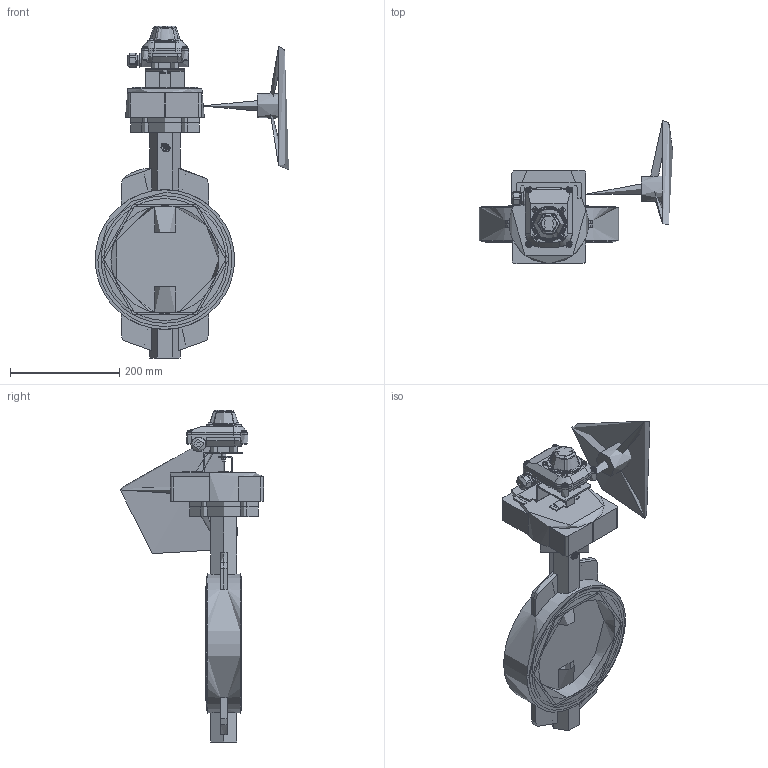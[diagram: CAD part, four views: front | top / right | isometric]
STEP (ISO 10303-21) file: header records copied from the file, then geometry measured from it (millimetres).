
FILE_DESCRIPTION(('STEP AP203'), '1');
FILE_NAME('3D_200-200-16-Ï.02', '', ('UNSPECIFIED'), ('UNSPECIFIED'), 'C3D Converter', 'C3D Toolkit', '');
FILE_SCHEMA(('CONFIG_CONTROL_DESIGN'));
Length unit declared in the file: millimetre
Bounding box: 354.16 x 261.98 x 606.9 mm (x, y, z)
Topology: 4 solids, 9 shells, 1502 faces, 4298 edges, 2873 vertices
Faces by surface type: plane 1204, cylinder 181, torus 50, cone 47, bspline 20
Full cylindrical faces by diameter (mm): 4.917 x4, 6 x8, 8 x3, 10 x8, 12 x4, 13.5 x2, 14 x3, 16 x1, 17.294 x1, 18 x1, 19.049 x1, 22 x3, 27 x2, 32 x1, 47.622 x1, 61.5 x1, 125 x2, 197 x2, 223 x2, 233 x2, 245 x2, 255 x1
Entity records: 73754 total; most frequent: CARTESIAN_POINT 22626, ORIENTED_EDGE 8422, DIRECTION 7562, EDGE_CURVE 4211, LINE 3270, VECTOR 3270, VERTEX_POINT 2876, AXIS2_PLACEMENT_3D 2146
